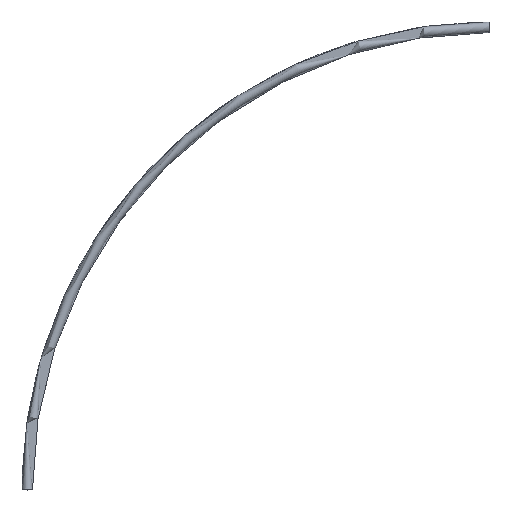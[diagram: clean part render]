
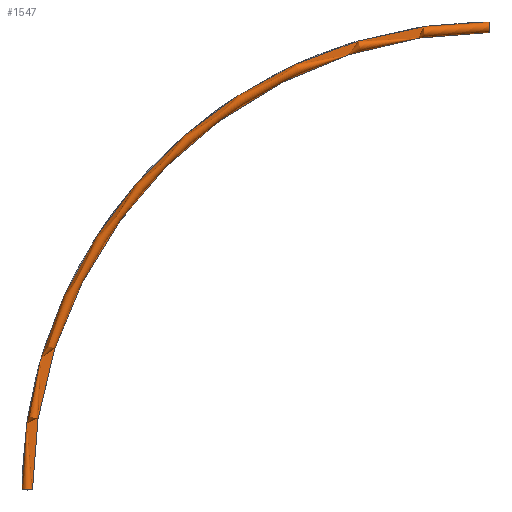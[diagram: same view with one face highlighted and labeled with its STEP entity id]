
A CAD part, top view. The second image highlights one B-rep face of the part: STEP entity #1547.
In plain terms, the highlighted toroidal (fillet/blend) face has major radius 2225 mm and minor radius 25 mm.
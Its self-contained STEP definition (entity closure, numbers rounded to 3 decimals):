
#126 = CARTESIAN_POINT ( 'NONE',  ( 0., 2200., 0. ) ) ;
#138 = AXIS2_PLACEMENT_3D ( 'NONE', #158, #157, #156 ) ;
#139 = DIRECTION ( 'NONE',  ( 0., 0., 1. ) ) ;
#146 = AXIS2_PLACEMENT_3D ( 'NONE', #151, #139, #168 ) ;
#147 = CIRCLE ( 'NONE', #146, 2250. ) ;
#151 = CARTESIAN_POINT ( 'NONE',  ( 0., 0., 0. ) ) ;
#152 = CIRCLE ( 'NONE', #138, 25. ) ;
#154 = CARTESIAN_POINT ( 'NONE',  ( -2200., 0., 0. ) ) ;
#155 = CARTESIAN_POINT ( 'NONE',  ( -2250., 0., 0. ) ) ;
#156 = DIRECTION ( 'NONE',  ( 0., 0., 1. ) ) ;
#157 = DIRECTION ( 'NONE',  ( 0., 1., 0. ) ) ;
#158 = CARTESIAN_POINT ( 'NONE',  ( -2225., 0., 0. ) ) ;
#168 = DIRECTION ( 'NONE',  ( 1., 0., 0. ) ) ;
#169 = AXIS2_PLACEMENT_3D ( 'NONE', #179, #185, #178 ) ;
#178 = DIRECTION ( 'NONE',  ( 0., 0., 1. ) ) ;
#179 = CARTESIAN_POINT ( 'NONE',  ( 0., 2225., 0. ) ) ;
#181 = CARTESIAN_POINT ( 'NONE',  ( 0., 2250., 0. ) ) ;
#183 = CIRCLE ( 'NONE', #169, 25. ) ;
#185 = DIRECTION ( 'NONE',  ( 1., 0., 0. ) ) ;
#488 = CARTESIAN_POINT ( 'NONE',  ( 0., 0., 0. ) ) ;
#495 = AXIS2_PLACEMENT_3D ( 'NONE', #488, #496, #497 ) ;
#496 = DIRECTION ( 'NONE',  ( 0., 0., 1. ) ) ;
#497 = DIRECTION ( 'NONE',  ( 1., 0., 0. ) ) ;
#575 = TOROIDAL_SURFACE ( 'NONE', #495, 2225., 25. ) ;
#588 = FACE_OUTER_BOUND ( 'NONE', #1186, .T. ) ;
#892 = DIRECTION ( 'NONE',  ( 0., 0., 1. ) ) ;
#893 = CARTESIAN_POINT ( 'NONE',  ( 0., 0., 0. ) ) ;
#894 = AXIS2_PLACEMENT_3D ( 'NONE', #893, #892, #896 ) ;
#895 = CIRCLE ( 'NONE', #894, 2200. ) ;
#896 = DIRECTION ( 'NONE',  ( 1., 0., 0. ) ) ;
#1175 = ORIENTED_EDGE ( 'NONE', *, *, #1190, .T. ) ;
#1178 = EDGE_CURVE ( 'NONE', #1180, #1187, #183, .T. ) ;
#1180 = VERTEX_POINT ( 'NONE', #181 ) ;
#1186 = EDGE_LOOP ( 'NONE', ( #1191, #1175, #1195, #1207 ) ) ;
#1187 = VERTEX_POINT ( 'NONE', #126 ) ;
#1190 = EDGE_CURVE ( 'NONE', #1180, #1193, #147, .T. ) ;
#1191 = ORIENTED_EDGE ( 'NONE', *, *, #1178, .F. ) ;
#1192 = EDGE_CURVE ( 'NONE', #1193, #1194, #152, .T. ) ;
#1193 = VERTEX_POINT ( 'NONE', #155 ) ;
#1194 = VERTEX_POINT ( 'NONE', #154 ) ;
#1195 = ORIENTED_EDGE ( 'NONE', *, *, #1192, .T. ) ;
#1207 = ORIENTED_EDGE ( 'NONE', *, *, #1211, .F. ) ;
#1211 = EDGE_CURVE ( 'NONE', #1187, #1194, #895, .T. ) ;
#1547 = ADVANCED_FACE ( 'NONE', ( #588 ), #575, .T. ) ;
